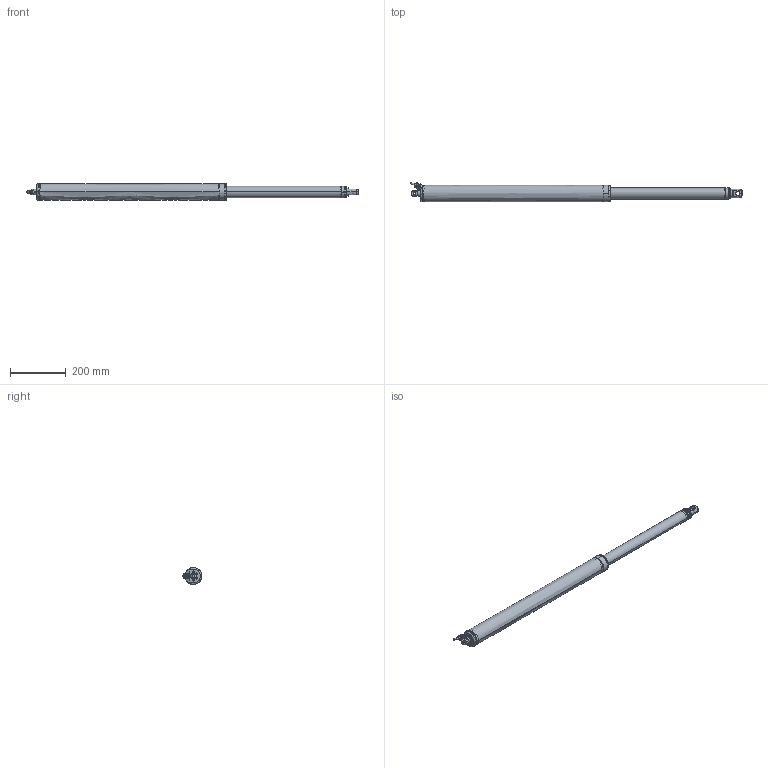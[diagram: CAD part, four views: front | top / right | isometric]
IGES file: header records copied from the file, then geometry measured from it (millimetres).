
Start section: SolidWorks IGES file using analytic representation for surfaces
Global section: file name: C:\Users\rick\Desktop\mk51.IGS; native system: SolidWorks 2023; preprocessor: SolidWorks 2023; author: rick; date: 260819.092647; units: millimetre
Bounding box: 1186.41 x 70.37 x 60 mm (x, y, z)
Surface area: 459161.5 mm2 (no closed solid volume)
Topology: 0 solids, 0 shells, 493 faces, 7738 edges, 7733 vertices
Faces by surface type: bspline 269, revolution 224
